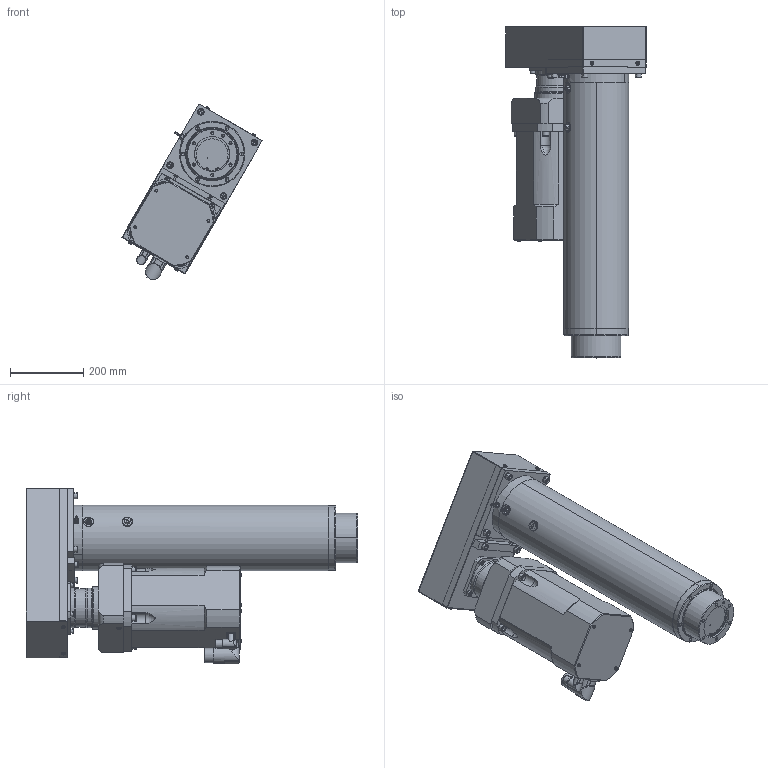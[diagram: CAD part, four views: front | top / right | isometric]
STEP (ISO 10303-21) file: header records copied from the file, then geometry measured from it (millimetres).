
FILE_DESCRIPTION (( 'STEP AP203' ), '1' );
FILE_NAME ('LN5P0600-035-025NG0.STEP', '2014-11-18T08:28:35', ( 'Holtz' ), ( '' ), 'SwSTEP 2.0', 'SolidWorks 2013', '' );
FILE_SCHEMA (( 'CONFIG_CONTROL_DESIGN' ));
Length unit declared in the file: millimetre
Products named in the file (1): LN5P0600-035-025NG0
Bounding box: 381.77 x 903.5 x 478.79 mm (x, y, z)
Volume: 28404777.5 mm3; surface area: 2621265.1 mm2
Topology: 45 solids, 45 shells, 1460 faces, 3383 edges, 2018 vertices
Faces by surface type: plane 560, cylinder 526, cone 264, torus 78, bspline 30, sphere 2
Entity records: 42882 total; most frequent: CARTESIAN_POINT 9503, DIRECTION 7376, ORIENTED_EDGE 6482, EDGE_CURVE 3241, AXIS2_PLACEMENT_3D 2880, VERTEX_POINT 2018, EDGE_LOOP 1739, VECTOR 1616
